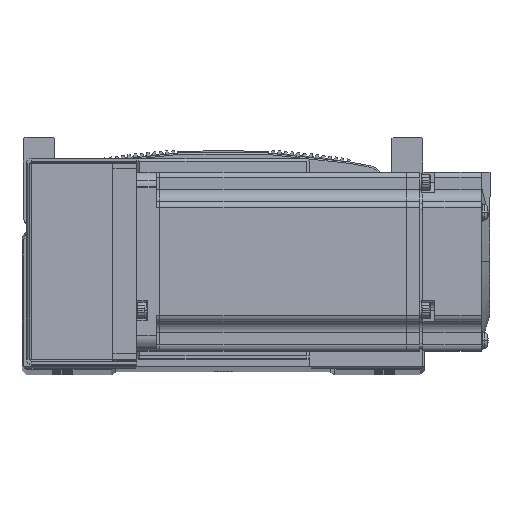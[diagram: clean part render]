
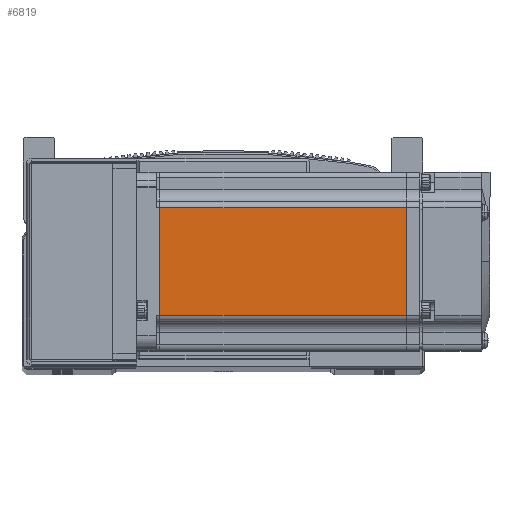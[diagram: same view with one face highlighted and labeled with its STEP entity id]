
A CAD part, top view. The second image highlights one B-rep face of the part: STEP entity #6819.
In plain terms, the highlighted planar face has unit normal (0, 0, 1) as drawn and (0, 0, -1) by its records, which use the part's own axes.
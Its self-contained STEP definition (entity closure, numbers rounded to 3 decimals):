
#2698 = LINE ( 'NONE', #4827, #2701 ) ;
#2701 = VECTOR ( 'NONE', #4871, 1000. ) ;
#2801 = VECTOR ( 'NONE', #4981, 1000. ) ;
#2820 = LINE ( 'NONE', #5027, #2939 ) ;
#2828 = LINE ( 'NONE', #4930, #2801 ) ;
#2939 = VECTOR ( 'NONE', #5028, 1000. ) ;
#4827 = CARTESIAN_POINT ( 'NONE',  ( -90.45, 25., -30. ) ) ;
#4871 = DIRECTION ( 'NONE',  ( 0., 1., 0. ) ) ;
#4930 = CARTESIAN_POINT ( 'NONE',  ( -6.5, 18., -30. ) ) ;
#4981 = DIRECTION ( 'NONE',  ( 1., 0., 0. ) ) ;
#5027 = CARTESIAN_POINT ( 'NONE',  ( -6.5, -18., -30. ) ) ;
#5028 = DIRECTION ( 'NONE',  ( -1., 0., 0. ) ) ;
#5672 = EDGE_CURVE ( 'NONE', #41865, #41830, #37988, .T. ) ;
#6819 = ADVANCED_FACE ( 'NONE', ( #33580 ), #56263, .T. ) ;
#9012 = EDGE_LOOP ( 'NONE', ( #55017, #55054, #55178, #55019 ) ) ;
#22999 = CARTESIAN_POINT ( 'NONE',  ( -90.45, -18., -30. ) ) ;
#23044 = CARTESIAN_POINT ( 'NONE',  ( -90.45, 18., -30. ) ) ;
#23052 = CARTESIAN_POINT ( 'NONE',  ( -7.75, -18., -30. ) ) ;
#32648 = AXIS2_PLACEMENT_3D ( 'NONE', #56254, #56351, #56281 ) ;
#33580 = FACE_OUTER_BOUND ( 'NONE', #9012, .T. ) ;
#37988 = LINE ( 'NONE', #65811, #37989 ) ;
#37989 = VECTOR ( 'NONE', #65832, 1000. ) ;
#41780 = VERTEX_POINT ( 'NONE', #23044 ) ;
#41799 = VERTEX_POINT ( 'NONE', #22999 ) ;
#41830 = VERTEX_POINT ( 'NONE', #23052 ) ;
#41865 = VERTEX_POINT ( 'NONE', #75353 ) ;
#55017 = ORIENTED_EDGE ( 'NONE', *, *, #5672, .T. ) ;
#55019 = ORIENTED_EDGE ( 'NONE', *, *, #74328, .T. ) ;
#55054 = ORIENTED_EDGE ( 'NONE', *, *, #74346, .T. ) ;
#55178 = ORIENTED_EDGE ( 'NONE', *, *, #74278, .T. ) ;
#56254 = CARTESIAN_POINT ( 'NONE',  ( -6.5, 25., -30. ) ) ;
#56263 = PLANE ( 'NONE',  #32648 ) ;
#56281 = DIRECTION ( 'NONE',  ( -1., 0., 0. ) ) ;
#56351 = DIRECTION ( 'NONE',  ( 0., 0., -1. ) ) ;
#65811 = CARTESIAN_POINT ( 'NONE',  ( -7.75, 25., -30. ) ) ;
#65832 = DIRECTION ( 'NONE',  ( 0., -1., 0. ) ) ;
#74278 = EDGE_CURVE ( 'NONE', #41799, #41780, #2698, .T. ) ;
#74328 = EDGE_CURVE ( 'NONE', #41780, #41865, #2828, .T. ) ;
#74346 = EDGE_CURVE ( 'NONE', #41830, #41799, #2820, .T. ) ;
#75353 = CARTESIAN_POINT ( 'NONE',  ( -7.75, 18., -30. ) ) ;
